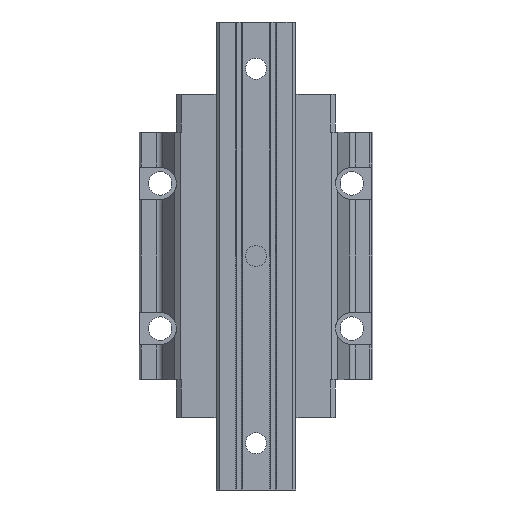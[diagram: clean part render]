
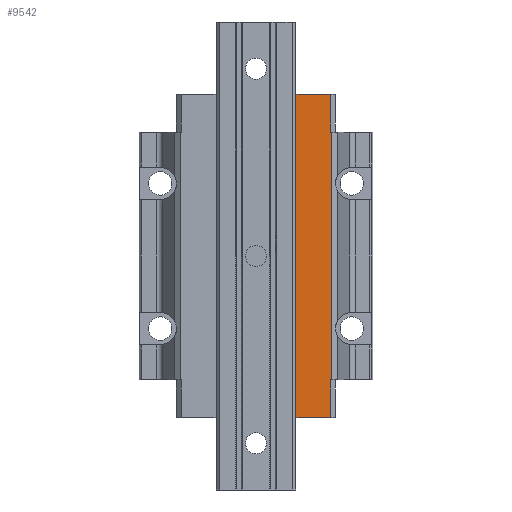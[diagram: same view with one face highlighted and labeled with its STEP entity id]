
A CAD part, front view. The second image highlights one B-rep face of the part: STEP entity #9542.
In plain terms, the highlighted planar face has unit normal (0, -1, 0).
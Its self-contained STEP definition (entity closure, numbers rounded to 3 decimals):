
#57 = ORIENTED_EDGE ( 'NONE', *, *, #3239, .T. ) ;
#61 = CARTESIAN_POINT ( 'NONE',  ( -50., -21.5, -52.9 ) ) ;
#169 = CARTESIAN_POINT ( 'NONE',  ( 0., -21.5, 0. ) ) ;
#208 = VECTOR ( 'NONE', #9198, 1000. ) ;
#226 = CARTESIAN_POINT ( 'NONE',  ( 31.908, -21.5, -52.9 ) ) ;
#413 = AXIS2_PLACEMENT_3D ( 'NONE', #169, #7801, #3264 ) ;
#434 = VERTEX_POINT ( 'NONE', #226 ) ;
#622 = EDGE_CURVE ( 'NONE', #7296, #3327, #4331, .T. ) ;
#854 = VECTOR ( 'NONE', #3530, 1000. ) ;
#921 = DIRECTION ( 'NONE',  ( -1., 0., 0. ) ) ;
#1093 = CARTESIAN_POINT ( 'NONE',  ( 33.954, -21.5, 69.1 ) ) ;
#1336 = DIRECTION ( 'NONE',  ( 0., 0., -1. ) ) ;
#1462 = EDGE_CURVE ( 'NONE', #2245, #434, #8701, .T. ) ;
#1640 = LINE ( 'NONE', #6594, #3671 ) ;
#1859 = FACE_OUTER_BOUND ( 'NONE', #2381, .T. ) ;
#1968 = EDGE_CURVE ( 'NONE', #3327, #3336, #4904, .T. ) ;
#2152 = VECTOR ( 'NONE', #4494, 1000. ) ;
#2245 = VERTEX_POINT ( 'NONE', #9544 ) ;
#2264 = ORIENTED_EDGE ( 'NONE', *, *, #6935, .T. ) ;
#2296 = CARTESIAN_POINT ( 'NONE',  ( 32.366, -21.5, 52.9 ) ) ;
#2373 = CARTESIAN_POINT ( 'NONE',  ( -34.046, -21.5, -69.1 ) ) ;
#2381 = EDGE_LOOP ( 'NONE', ( #57, #3055, #5451, #3908, #2501, #8306, #6630, #2264 ) ) ;
#2501 = ORIENTED_EDGE ( 'NONE', *, *, #8449, .T. ) ;
#2652 = VECTOR ( 'NONE', #9727, 1000. ) ;
#3055 = ORIENTED_EDGE ( 'NONE', *, *, #622, .T. ) ;
#3239 = EDGE_CURVE ( 'NONE', #8857, #7296, #4169, .T. ) ;
#3264 = DIRECTION ( 'NONE',  ( 0., 0., -1. ) ) ;
#3327 = VERTEX_POINT ( 'NONE', #5428 ) ;
#3328 = CARTESIAN_POINT ( 'NONE',  ( 16.641, -21.5, 69.1 ) ) ;
#3336 = VERTEX_POINT ( 'NONE', #3935 ) ;
#3530 = DIRECTION ( 'NONE',  ( 0., 0., 1. ) ) ;
#3671 = VECTOR ( 'NONE', #1336, 1000. ) ;
#3908 = ORIENTED_EDGE ( 'NONE', *, *, #7186, .F. ) ;
#3935 = CARTESIAN_POINT ( 'NONE',  ( 31.908, -21.5, 69.1 ) ) ;
#4169 = LINE ( 'NONE', #6705, #2152 ) ;
#4331 = LINE ( 'NONE', #7246, #5600 ) ;
#4431 = VECTOR ( 'NONE', #4921, 1000. ) ;
#4494 = DIRECTION ( 'NONE',  ( 0., 0., 1. ) ) ;
#4904 = LINE ( 'NONE', #7869, #854 ) ;
#4921 = DIRECTION ( 'NONE',  ( 1., 0., 0. ) ) ;
#5428 = CARTESIAN_POINT ( 'NONE',  ( 31.908, -21.5, 52.9 ) ) ;
#5451 = ORIENTED_EDGE ( 'NONE', *, *, #1968, .T. ) ;
#5600 = VECTOR ( 'NONE', #8795, 1000. ) ;
#5701 = VERTEX_POINT ( 'NONE', #3328 ) ;
#5870 = VERTEX_POINT ( 'NONE', #9555 ) ;
#6238 = EDGE_CURVE ( 'NONE', #2245, #5870, #9122, .T. ) ;
#6288 = LINE ( 'NONE', #61, #208 ) ;
#6404 = LINE ( 'NONE', #1093, #4431 ) ;
#6594 = CARTESIAN_POINT ( 'NONE',  ( 16.641, -21.5, 69.1 ) ) ;
#6630 = ORIENTED_EDGE ( 'NONE', *, *, #1462, .T. ) ;
#6705 = CARTESIAN_POINT ( 'NONE',  ( 32.366, -21.5, -33.234 ) ) ;
#6935 = EDGE_CURVE ( 'NONE', #434, #8857, #6288, .T. ) ;
#7037 = PLANE ( 'NONE',  #413 ) ;
#7090 = VECTOR ( 'NONE', #921, 1000. ) ;
#7186 = EDGE_CURVE ( 'NONE', #5701, #3336, #6404, .T. ) ;
#7246 = CARTESIAN_POINT ( 'NONE',  ( 50., -21.5, 52.9 ) ) ;
#7296 = VERTEX_POINT ( 'NONE', #2296 ) ;
#7801 = DIRECTION ( 'NONE',  ( 0., -1., 0. ) ) ;
#7869 = CARTESIAN_POINT ( 'NONE',  ( 31.908, -21.5, 69.1 ) ) ;
#8297 = CARTESIAN_POINT ( 'NONE',  ( 31.908, -21.5, -52.9 ) ) ;
#8306 = ORIENTED_EDGE ( 'NONE', *, *, #6238, .F. ) ;
#8449 = EDGE_CURVE ( 'NONE', #5701, #5870, #1640, .T. ) ;
#8701 = LINE ( 'NONE', #8297, #2652 ) ;
#8795 = DIRECTION ( 'NONE',  ( -1., 0., 0. ) ) ;
#8857 = VERTEX_POINT ( 'NONE', #8863 ) ;
#8863 = CARTESIAN_POINT ( 'NONE',  ( 32.366, -21.5, -52.9 ) ) ;
#9122 = LINE ( 'NONE', #2373, #7090 ) ;
#9198 = DIRECTION ( 'NONE',  ( 1., 0., 0. ) ) ;
#9542 = ADVANCED_FACE ( 'NONE', ( #1859 ), #7037, .T. ) ;
#9544 = CARTESIAN_POINT ( 'NONE',  ( 31.908, -21.5, -69.1 ) ) ;
#9555 = CARTESIAN_POINT ( 'NONE',  ( 16.641, -21.5, -69.1 ) ) ;
#9727 = DIRECTION ( 'NONE',  ( 0., 0., 1. ) ) ;
